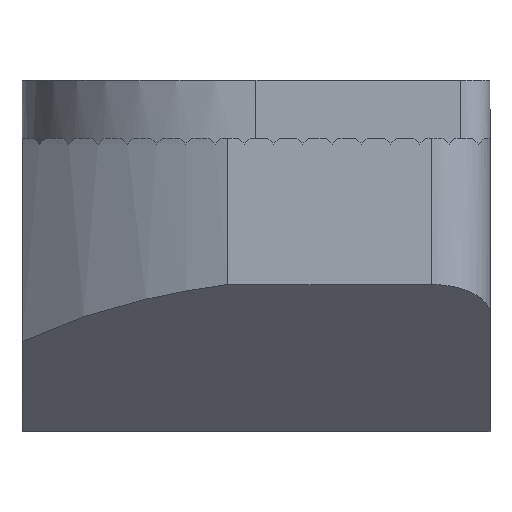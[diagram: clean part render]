
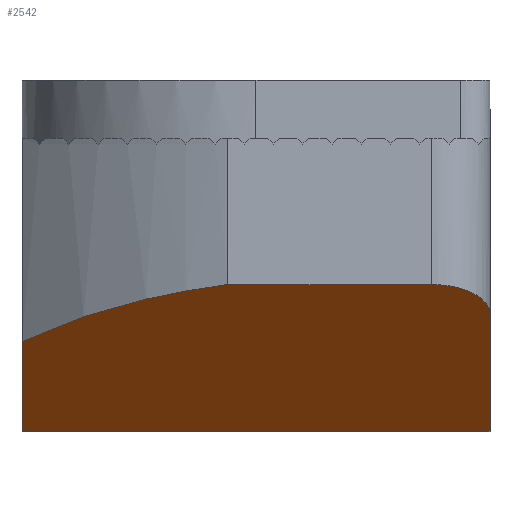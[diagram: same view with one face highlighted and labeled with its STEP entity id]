
A CAD part, top view. The second image highlights one B-rep face of the part: STEP entity #2542.
In plain terms, the highlighted planar face has unit normal (0, -0.894, 0.447).
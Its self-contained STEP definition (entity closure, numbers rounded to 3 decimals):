
#58 = VERTEX_POINT ( 'NONE', #3140 ) ;
#67 = ORIENTED_EDGE ( 'NONE', *, *, #2818, .F. ) ;
#486 = PLANE ( 'NONE',  #618 ) ;
#513 = VERTEX_POINT ( 'NONE', #2654 ) ;
#517 = CARTESIAN_POINT ( 'NONE',  ( -4., -2.5, 7.75 ) ) ;
#618 = AXIS2_PLACEMENT_3D ( 'NONE', #2123, #831, #3064 ) ;
#673 = CARTESIAN_POINT ( 'NONE',  ( -0.484, -2.5, 7.75 ) ) ;
#686 = CARTESIAN_POINT ( 'NONE',  ( 3., -2.5, 7.75 ) ) ;
#745 = ORIENTED_EDGE ( 'NONE', *, *, #2002, .F. ) ;
#831 = DIRECTION ( 'NONE',  ( 0., 0.894, -0.447 ) ) ;
#1185 = VECTOR ( 'NONE', #2252, 1000. ) ;
#1332 = LINE ( 'NONE', #2571, #1185 ) ;
#1343 = ORIENTED_EDGE ( 'NONE', *, *, #2393, .T. ) ;
#1402 = VERTEX_POINT ( 'NONE', #1925 ) ;
#1446 = DIRECTION ( 'NONE',  ( 1., 0., 0. ) ) ;
#1469 =( BOUNDED_CURVE ( )  B_SPLINE_CURVE ( 3, ( #1986, #3849, #2626, #686 ),
 .UNSPECIFIED., .F., .T. ) 
 B_SPLINE_CURVE_WITH_KNOTS ( ( 4, 4 ),
 ( 4.712, 6.283 ),
 .UNSPECIFIED. ) 
 CURVE ( )  GEOMETRIC_REPRESENTATION_ITEM ( )  RATIONAL_B_SPLINE_CURVE ( ( 1., 0.805, 0.805, 1. ) ) 
 REPRESENTATION_ITEM ( '' )  );
#1538 = DIRECTION ( 'NONE',  ( 0., 0.447, 0.894 ) ) ;
#1925 = CARTESIAN_POINT ( 'NONE',  ( 3., -2.5, 7.75 ) ) ;
#1986 = CARTESIAN_POINT ( 'NONE',  ( 4., -3., 6.75 ) ) ;
#1988 = CARTESIAN_POINT ( 'NONE',  ( 4., -3., 6.75 ) ) ;
#2002 = EDGE_CURVE ( 'NONE', #3711, #1402, #3686, .T. ) ;
#2030 = CARTESIAN_POINT ( 'NONE',  ( -4., -5., 2.75 ) ) ;
#2037 = DIRECTION ( 'NONE',  ( 1., 0., 0. ) ) ;
#2122 = FACE_OUTER_BOUND ( 'NONE', #2487, .T. ) ;
#2123 = CARTESIAN_POINT ( 'NONE',  ( -4., -2.5, 7.75 ) ) ;
#2142 = CARTESIAN_POINT ( 'NONE',  ( 4., -5., 2.75 ) ) ;
#2190 = EDGE_CURVE ( 'NONE', #58, #513, #3277, .T. ) ;
#2252 = DIRECTION ( 'NONE',  ( 0., 0.447, 0.894 ) ) ;
#2293 = CARTESIAN_POINT ( 'NONE',  ( -3.007, -3., 6.75 ) ) ;
#2323 = VERTEX_POINT ( 'NONE', #1988 ) ;
#2393 = EDGE_CURVE ( 'NONE', #58, #4131, #2604, .T. ) ;
#2481 = VECTOR ( 'NONE', #1446, 1000. ) ;
#2487 = EDGE_LOOP ( 'NONE', ( #3087, #3278, #745, #67, #3929, #1343 ) ) ;
#2542 = ADVANCED_FACE ( 'NONE', ( #2122 ), #486, .F. ) ;
#2571 = CARTESIAN_POINT ( 'NONE',  ( 4., -2.5, 7.75 ) ) ;
#2604 = LINE ( 'NONE', #2030, #2481 ) ;
#2609 = CARTESIAN_POINT ( 'NONE',  ( -1.809, -2.67, 7.411 ) ) ;
#2626 = CARTESIAN_POINT ( 'NONE',  ( 3.586, -2.5, 7.75 ) ) ;
#2654 = CARTESIAN_POINT ( 'NONE',  ( -4., -3.47, 5.809 ) ) ;
#2818 = EDGE_CURVE ( 'NONE', #513, #3711, #3326, .T. ) ;
#2833 = EDGE_CURVE ( 'NONE', #2323, #1402, #1469, .T. ) ;
#2884 = EDGE_CURVE ( 'NONE', #4131, #2323, #1332, .T. ) ;
#3064 = DIRECTION ( 'NONE',  ( 0., 0.447, 0.894 ) ) ;
#3072 = CARTESIAN_POINT ( 'NONE',  ( -0.484, -2.5, 7.75 ) ) ;
#3087 = ORIENTED_EDGE ( 'NONE', *, *, #2884, .T. ) ;
#3140 = CARTESIAN_POINT ( 'NONE',  ( -4., -5., 2.75 ) ) ;
#3183 = VECTOR ( 'NONE', #1538, 1000. ) ;
#3277 = LINE ( 'NONE', #517, #3183 ) ;
#3278 = ORIENTED_EDGE ( 'NONE', *, *, #2833, .T. ) ;
#3326 =( BOUNDED_CURVE ( )  B_SPLINE_CURVE ( 3, ( #4157, #2293, #2609, #673 ),
 .UNSPECIFIED., .F., .T. ) 
 B_SPLINE_CURVE_WITH_KNOTS ( ( 4, 4 ),
 ( 5.525, 6.033 ),
 .UNSPECIFIED. ) 
 CURVE ( )  GEOMETRIC_REPRESENTATION_ITEM ( )  RATIONAL_B_SPLINE_CURVE ( ( 1., 0.979, 0.979, 1. ) ) 
 REPRESENTATION_ITEM ( '' )  );
#3686 = LINE ( 'NONE', #3898, #3738 ) ;
#3711 = VERTEX_POINT ( 'NONE', #3072 ) ;
#3738 = VECTOR ( 'NONE', #2037, 1000. ) ;
#3849 = CARTESIAN_POINT ( 'NONE',  ( 4., -2.707, 7.336 ) ) ;
#3898 = CARTESIAN_POINT ( 'NONE',  ( -4., -2.5, 7.75 ) ) ;
#3929 = ORIENTED_EDGE ( 'NONE', *, *, #2190, .F. ) ;
#4131 = VERTEX_POINT ( 'NONE', #2142 ) ;
#4157 = CARTESIAN_POINT ( 'NONE',  ( -4., -3.47, 5.809 ) ) ;
